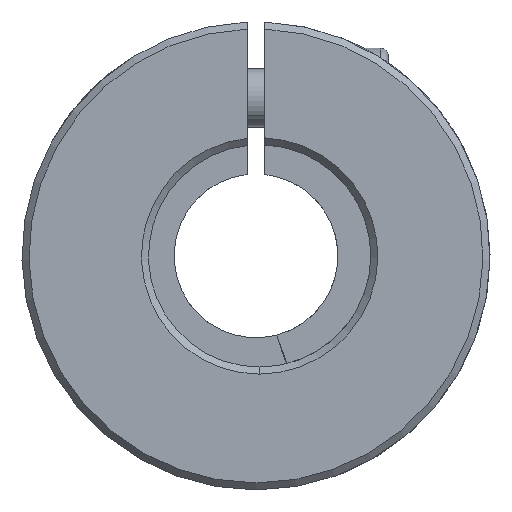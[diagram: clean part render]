
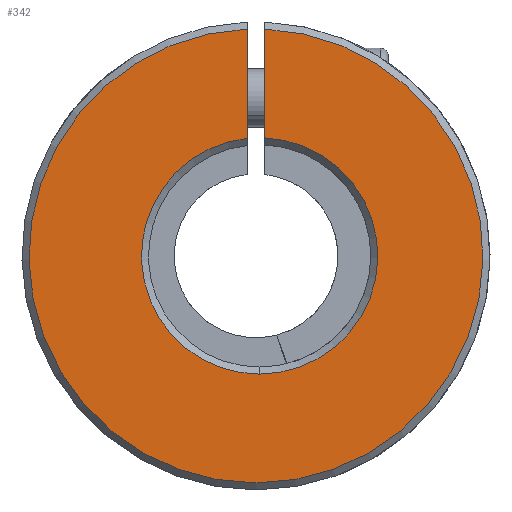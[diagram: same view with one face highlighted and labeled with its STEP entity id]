
A CAD part, front view. The second image highlights one B-rep face of the part: STEP entity #342.
In plain terms, the highlighted planar face has unit normal (0, -1, 0).
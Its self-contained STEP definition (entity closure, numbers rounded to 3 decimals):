
#58 = ORIENTED_EDGE ( 'NONE', *, *, #815, .T. ) ;
#111 = AXIS2_PLACEMENT_3D ( 'NONE', #2654, #1309, #1335 ) ;
#232 = AXIS2_PLACEMENT_3D ( 'NONE', #5068, #5132, #4603 ) ;
#342 = ADVANCED_FACE ( 'NONE', ( #1670 ), #395, .F. ) ;
#387 = ORIENTED_EDGE ( 'NONE', *, *, #1767, .T. ) ;
#395 = PLANE ( 'NONE',  #111 ) ;
#516 = CIRCLE ( 'NONE', #232, 10.1 ) ;
#545 = DIRECTION ( 'NONE',  ( 0., 1., 0. ) ) ;
#641 = VERTEX_POINT ( 'NONE', #3854 ) ;
#721 = CIRCLE ( 'NONE', #4004, 10.1 ) ;
#815 = EDGE_CURVE ( 'NONE', #2677, #4215, #721, .T. ) ;
#876 = ORIENTED_EDGE ( 'NONE', *, *, #3524, .T. ) ;
#920 = CARTESIAN_POINT ( 'NONE',  ( 0.314, -30., 0. ) ) ;
#1040 = EDGE_CURVE ( 'NONE', #641, #2677, #3776, .T. ) ;
#1178 = VECTOR ( 'NONE', #5437, 1000. ) ;
#1309 = DIRECTION ( 'NONE',  ( 0., 1., 0. ) ) ;
#1335 = DIRECTION ( 'NONE',  ( 0., 0., 1. ) ) ;
#1409 = EDGE_LOOP ( 'NONE', ( #1667, #58, #876, #4854, #387 ) ) ;
#1631 = DIRECTION ( 'NONE',  ( 0., -1., 0. ) ) ;
#1667 = ORIENTED_EDGE ( 'NONE', *, *, #1040, .T. ) ;
#1670 = FACE_OUTER_BOUND ( 'NONE', #1409, .T. ) ;
#1767 = EDGE_CURVE ( 'NONE', #3576, #641, #5295, .T. ) ;
#1889 = DIRECTION ( 'NONE',  ( 0., 0., 1. ) ) ;
#1926 = AXIS2_PLACEMENT_3D ( 'NONE', #4443, #1631, #3409 ) ;
#1961 = VERTEX_POINT ( 'NONE', #3814 ) ;
#2240 = EDGE_CURVE ( 'NONE', #1961, #3576, #2705, .T. ) ;
#2532 = DIRECTION ( 'NONE',  ( 0., 0., -1. ) ) ;
#2654 = CARTESIAN_POINT ( 'NONE',  ( 0., -30., 0. ) ) ;
#2677 = VERTEX_POINT ( 'NONE', #4514 ) ;
#2705 = LINE ( 'NONE', #4520, #1178 ) ;
#3254 = VECTOR ( 'NONE', #2532, 1000. ) ;
#3342 = CARTESIAN_POINT ( 'NONE',  ( 0.75, -30., -6. ) ) ;
#3409 = DIRECTION ( 'NONE',  ( 0., 0., 1. ) ) ;
#3476 = CARTESIAN_POINT ( 'NONE',  ( -0.75, -30., 19.385 ) ) ;
#3524 = EDGE_CURVE ( 'NONE', #4215, #1961, #516, .T. ) ;
#3576 = VERTEX_POINT ( 'NONE', #3476 ) ;
#3776 = LINE ( 'NONE', #3342, #3254 ) ;
#3814 = CARTESIAN_POINT ( 'NONE',  ( -0.75, -30., 10.044 ) ) ;
#3854 = CARTESIAN_POINT ( 'NONE',  ( 0.75, -30., 19.385 ) ) ;
#4004 = AXIS2_PLACEMENT_3D ( 'NONE', #920, #545, #1889 ) ;
#4215 = VERTEX_POINT ( 'NONE', #5076 ) ;
#4443 = CARTESIAN_POINT ( 'NONE',  ( 0., -30., 0. ) ) ;
#4514 = CARTESIAN_POINT ( 'NONE',  ( 0.75, -30., 10.091 ) ) ;
#4520 = CARTESIAN_POINT ( 'NONE',  ( -0.75, -30., -6. ) ) ;
#4603 = DIRECTION ( 'NONE',  ( 0., 0., 1. ) ) ;
#4854 = ORIENTED_EDGE ( 'NONE', *, *, #2240, .T. ) ;
#5068 = CARTESIAN_POINT ( 'NONE',  ( 0.314, -30., 0. ) ) ;
#5076 = CARTESIAN_POINT ( 'NONE',  ( 0.314, -30., -10.1 ) ) ;
#5132 = DIRECTION ( 'NONE',  ( 0., 1., 0. ) ) ;
#5295 = CIRCLE ( 'NONE', #1926, 19.4 ) ;
#5437 = DIRECTION ( 'NONE',  ( 0., 0., 1. ) ) ;
